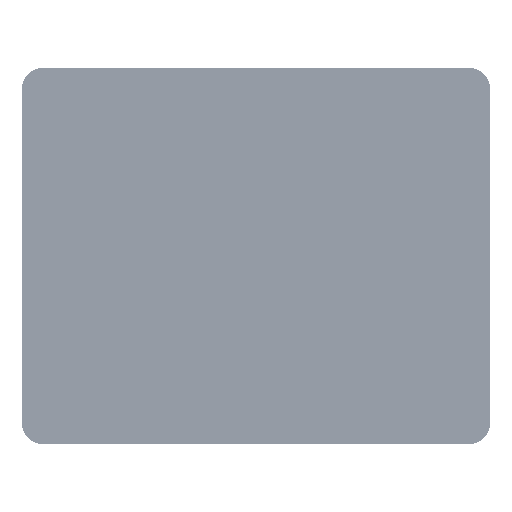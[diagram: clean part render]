
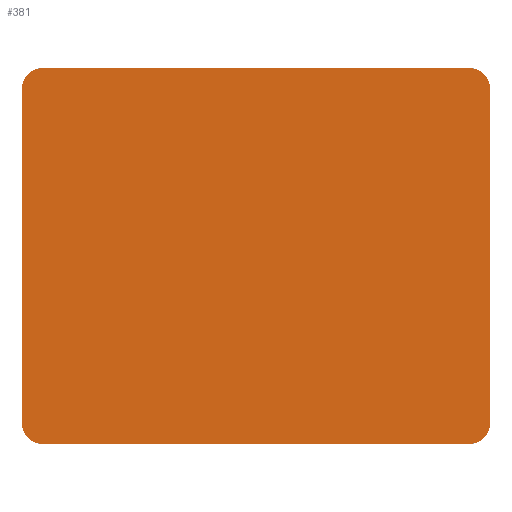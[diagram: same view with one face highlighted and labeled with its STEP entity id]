
A CAD part, front view. The second image highlights one B-rep face of the part: STEP entity #381.
In plain terms, the highlighted planar face has unit normal (0, -1, 0) as drawn and (0, 0, 1) by its records, which use the part's own axes.
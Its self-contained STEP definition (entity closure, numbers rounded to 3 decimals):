
#130 = VERTEX_POINT('',#131);
#131 = CARTESIAN_POINT('',(-74.,65.,0.));
#149 = VERTEX_POINT('',#150);
#150 = CARTESIAN_POINT('',(-81.,58.,0.));
#156 = EDGE_CURVE('',#130,#149,#157,.T.);
#157 = CIRCLE('',#158,7.);
#158 = AXIS2_PLACEMENT_3D('',#159,#160,#161);
#159 = CARTESIAN_POINT('',(-74.,58.,0.));
#160 = DIRECTION('',(0.,0.,1.));
#161 = DIRECTION('',(1.,0.,0.));
#172 = VERTEX_POINT('',#173);
#173 = CARTESIAN_POINT('',(-81.,-58.,0.));
#188 = EDGE_CURVE('',#172,#149,#189,.T.);
#189 = LINE('',#190,#191);
#190 = CARTESIAN_POINT('',(-81.,-58.,0.));
#191 = VECTOR('',#192,1.);
#192 = DIRECTION('',(0.,1.,0.));
#213 = VERTEX_POINT('',#214);
#214 = CARTESIAN_POINT('',(-74.,-65.,0.));
#220 = EDGE_CURVE('',#172,#213,#221,.T.);
#221 = CIRCLE('',#222,7.);
#222 = AXIS2_PLACEMENT_3D('',#223,#224,#225);
#223 = CARTESIAN_POINT('',(-74.,-58.,0.));
#224 = DIRECTION('',(0.,0.,1.));
#225 = DIRECTION('',(1.,0.,0.));
#236 = VERTEX_POINT('',#237);
#237 = CARTESIAN_POINT('',(74.,-65.,0.));
#252 = EDGE_CURVE('',#236,#213,#253,.T.);
#253 = LINE('',#254,#255);
#254 = CARTESIAN_POINT('',(74.,-65.,0.));
#255 = VECTOR('',#256,1.);
#256 = DIRECTION('',(-1.,0.,0.));
#277 = VERTEX_POINT('',#278);
#278 = CARTESIAN_POINT('',(81.,-58.,0.));
#284 = EDGE_CURVE('',#236,#277,#285,.T.);
#285 = CIRCLE('',#286,7.);
#286 = AXIS2_PLACEMENT_3D('',#287,#288,#289);
#287 = CARTESIAN_POINT('',(74.,-58.,0.));
#288 = DIRECTION('',(0.,0.,1.));
#289 = DIRECTION('',(1.,0.,0.));
#300 = VERTEX_POINT('',#301);
#301 = CARTESIAN_POINT('',(81.,58.,0.));
#316 = EDGE_CURVE('',#300,#277,#317,.T.);
#317 = LINE('',#318,#319);
#318 = CARTESIAN_POINT('',(81.,58.,0.));
#319 = VECTOR('',#320,1.);
#320 = DIRECTION('',(0.,-1.,0.));
#341 = VERTEX_POINT('',#342);
#342 = CARTESIAN_POINT('',(74.,65.,0.));
#348 = EDGE_CURVE('',#300,#341,#349,.T.);
#349 = CIRCLE('',#350,7.);
#350 = AXIS2_PLACEMENT_3D('',#351,#352,#353);
#351 = CARTESIAN_POINT('',(74.,58.,0.));
#352 = DIRECTION('',(0.,0.,1.));
#353 = DIRECTION('',(1.,0.,0.));
#371 = EDGE_CURVE('',#130,#341,#372,.T.);
#372 = LINE('',#373,#374);
#373 = CARTESIAN_POINT('',(-74.,65.,0.));
#374 = VECTOR('',#375,1.);
#375 = DIRECTION('',(1.,0.,0.));
#381 = ADVANCED_FACE('',(#382),#392,.T.);
#382 = FACE_BOUND('',#383,.T.);
#383 = EDGE_LOOP('',(#384,#385,#386,#387,#388,#389,#390,#391));
#384 = ORIENTED_EDGE('',*,*,#156,.T.);
#385 = ORIENTED_EDGE('',*,*,#188,.F.);
#386 = ORIENTED_EDGE('',*,*,#220,.T.);
#387 = ORIENTED_EDGE('',*,*,#252,.F.);
#388 = ORIENTED_EDGE('',*,*,#284,.T.);
#389 = ORIENTED_EDGE('',*,*,#316,.F.);
#390 = ORIENTED_EDGE('',*,*,#348,.T.);
#391 = ORIENTED_EDGE('',*,*,#371,.F.);
#392 = PLANE('',#393);
#393 = AXIS2_PLACEMENT_3D('',#394,#395,#396);
#394 = CARTESIAN_POINT('',(0.,0.,0.));
#395 = DIRECTION('',(0.,0.,1.));
#396 = DIRECTION('',(1.,0.,0.));
